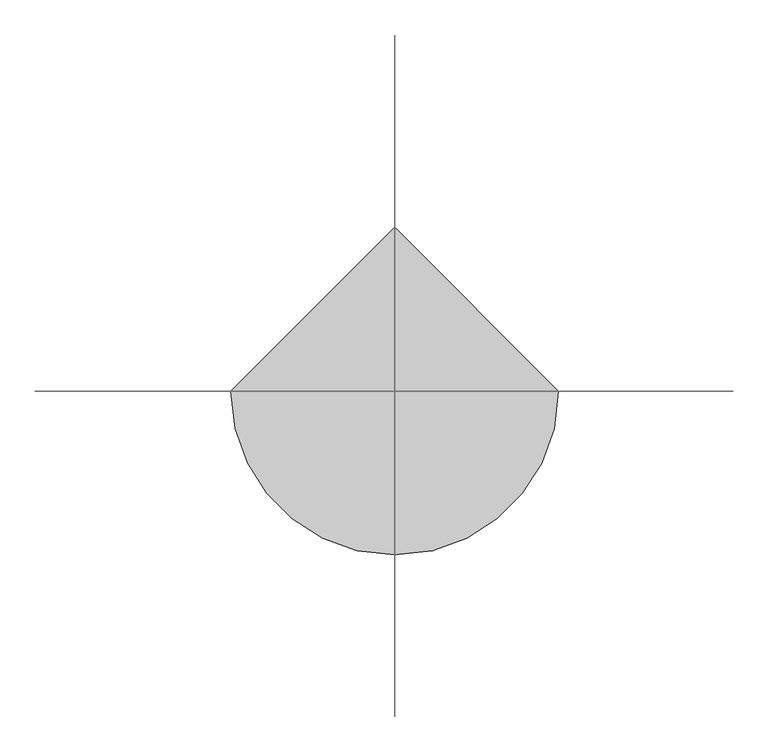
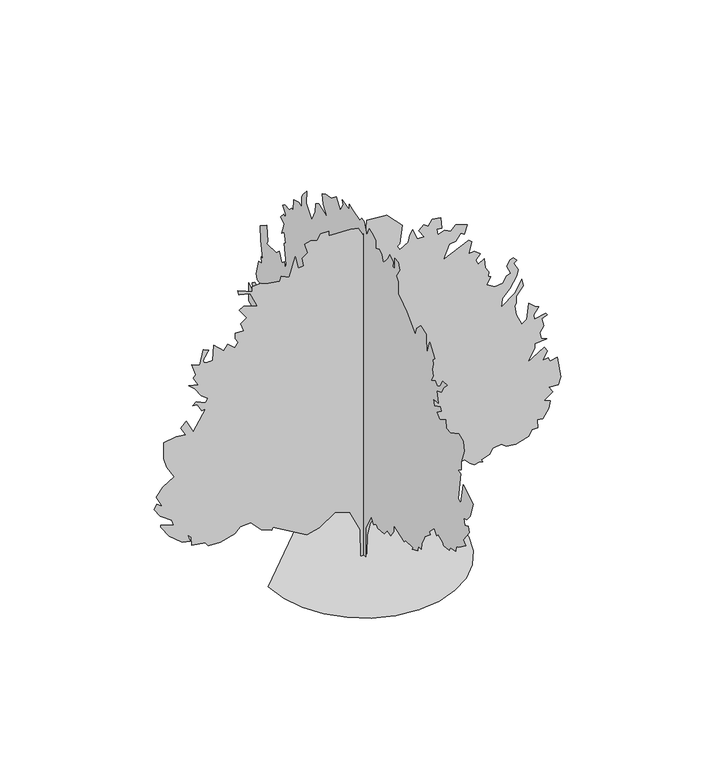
"""IFC4 building model written with IfcOpenShell, lengths in millimetres: geographic element geometry, Vegetacion PAEMFE : LAVANDA."""

from ifc_helpers import new_model, si_unit, origin, place, context, project, spatial, triangles, source, transform, mapped, element, save


def geographic_element_423ec4e2(model_context):
    return source(origin(), model_context, "Body", "Tessellation", [
        triangles([(-20.6854607, -8.5e-06, 157.9940081), (-79.7667336, -1.33e-05, 281.8835572), (-163.2318061, -1.13e-05, 308.9074528), (-249.231317, -4e-06, 249.4529786), (-319.2530422, 1e-07, 231.9474156), (-511.8137449, 1.8e-06, 345.7330393), (-516.1898586, 3e-06, 328.2280395), (-577.4615911, 4.1e-06, 354.485848), (-634.3505241, 2.9e-06, 415.7553277), (-695.6228016, 5.9e-06, 411.378669), (-726.2561062, 9.1e-06, 380.7442017), (-805.8339523, 1.39e-05, 357.9197227), (-875.0507303, 1.66e-05, 363.2386205), (-892.5562752, 1.61e-05, 385.1208604), (-966.9563124, 1.85e-05, 398.2497465), (-971.3340975, 1.59e-05, 446.389795), (-988.839715, 1.56e-05, 463.8953762), (-975.7063597, 1.73e-05, 424.5081001), (-1019.4730196, 1.87e-05, 433.2609089), (-1093.8731295, 1.83e-05, 494.5298435), (-1142.0120516, 1.63e-05, 564.5504605), (-1142.0120516, 1.55e-05, 577.6837795), (-1067.6119417, 1.38e-05, 551.4226645), (-1080.7397741, 1.23e-05, 586.4337905), (-1143.7508989, 1.23e-05, 631.9671667), (-1177.0231413, 1.08e-05, 682.7116711), (-1163.889786, 8.6e-06, 708.9727861), (-1133.2564814, 8.6e-06, 687.0894562), (-1168.2675711, 6.2e-06, 752.7339231), (-1129.9398233, 1.8e-06, 798.967293), (-1064.7397333, -3.5e-06, 838.7450975), (-1107.0008892, -5.9e-06, 910.2840448), (-1124.5064341, -8.5e-06, 967.1785372), (-1124.5064341, -1.42e-05, 1063.4563814), (-1054.484182, -1.78e-05, 1072.2119516), (-1001.9674747, -1.99e-05, 1067.8341665), (-1028.2230669, -2.16e-05, 1115.9730886), (-997.5896896, -2.47e-05, 1146.6064659), (-958.2007421, -2.18e-05, 1067.8341665), (-888.1784901, -3.16e-05, 1181.6176283), (-910.06182, -3.04e-05, 1177.2453661), (-936.3229351, -3.18e-05, 1221.0065758), (-962.5785273, -3.1e-05, 1225.3843609), (-940.7007202, -3.3e-05, 1242.8898331), (-888.1784901, -3.37e-05, 1216.628718), (-878.161805, -3.55e-05, 1240.2176125), (-914.4396051, -3.57e-05, 1269.1454979), (-949.4507675, -3.73e-05, 1321.6622051), (-984.4619299, -3.76e-05, 1352.3010326), (-931.9452227, -3.91e-05, 1339.1676773), (-958.2007421, -4.08e-05, 1387.3122677), (-945.0729824, -4.24e-05, 1404.8177399), (-966.9563124, -4.54e-05, 1470.4622795), (-923.1896524, -4.62e-05, 1452.956662), (-901.3118454, -5.22e-05, 1536.1068192), (-870.6729452, -5.27e-05, 1522.9789867), (-876.3784836, -5.21e-05, 1516.3567165), (-881.9173897, -5.14e-05, 1509.6289295), (-887.1229586, -5.08e-05, 1502.6789177), (-891.8284853, -5.01e-05, 1495.3956413), (-895.8729332, -4.95e-05, 1487.6734383), (-899.0895973, -4.89e-05, 1479.4011234), (-901.3118454, -4.82e-05, 1470.4622795), (-901.106262, -4.78e-05, 1462.6678425), (-897.5340237, -4.76e-05, 1457.6123371), (-891.1506924, -4.78e-05, 1454.8234085), (-882.5284716, -4.81e-05, 1453.8567524), (-872.2174004, -4.86e-05, 1454.256728), (-860.7896095, -4.91e-05, 1455.5678398), (-848.7951382, -4.98e-05, 1457.3289242), (-844.4173531, -5.52e-05, 1544.8567211), (-787.5228607, -5.45e-05, 1492.3400139), (-765.6450537, -5.73e-05, 1522.9789867), (-726.2561062, -5.69e-05, 1487.967897), (-704.3727762, -5.95e-05, 1514.2234165), (-721.8783211, -6.03e-05, 1540.4846043), (-721.8783211, -6.21e-05, 1571.1179089), (-673.739399, -6.42e-05, 1571.1179089), (-691.2450165, -6.63e-05, 1619.256831), (-658.3616312, -6.92e-05, 1643.8402142), (-699.9949911, -7.09e-05, 1702.4069881), (-673.739399, -7.28e-05, 1715.5346752), (-599.3393618, -7.48e-05, 1693.6569408), (-638.7283092, -7.8e-05, 1776.8069527), (-701.9227804, -7.63e-05, 1795.1125214), (-708.7505613, -7.75e-05, 1820.5680897), (-664.9839014, -7.84e-05, 1803.0626175), (-625.6004768, -7.91e-05, 1785.557), (-625.6004768, -8.09e-05, 1816.1958275), (-579.7504775, -8.32e-05, 1821.1570072), (-551.2009847, -8.36e-05, 1807.4404026), (-472.4259238, -8.63e-05, 1794.3125702), (-463.6731514, -8.82e-05, 1820.5680897), (-419.909798, -8.89e-05, 1798.6903553), (-384.8986356, -9.69e-05, 1908.096032), (-369.0297277, -9.33e-05, 1835.8236992), (-336.7585871, -9.48e-05, 1838.0737072), (-345.5113958, -9.73e-05, 1886.2181522), (-314.8769285, -0.0001, 1908.096032), (-332.3819283, -0.0001026, 1964.9905243), (-297.3713473, -0.0001046, 1973.7404263), (-262.3607663, -0.0001057, 1964.9905243), (-240.4785264, -0.0001084, 1995.6238289), (-196.7151548, -0.0001104, 1995.6238289), (-196.7151548, -0.0001088, 1969.3683094), (-71.3622775, -0.0001139, 1963.6349384), (-31.3734688, -0.0001151, 1954.4237274), (-4.1543479, -0.0001136, 1908.096032), (13.3512324, -0.0001161, 1938.7348595), (17.7275698, -0.0001192, 1986.8737816), (130.4189925, -0.0001235, 1976.8460506), (217.4607272, -0.000122, 1886.701553), (201.5351549, -0.000115, 1781.1847378), (188.4062688, -0.0001139, 1772.4291676), (201.5351549, -0.0001129, 1746.1736481), (249.6752034, -0.0001166, 1772.4291676), (258.4379861, -0.0001192, 1810.8958603), (275.933557, -0.0001216, 1838.0737072), (302.1919106, -0.0001191, 1776.8069527), (340.7491502, -0.0001207, 1775.7403027), (310.9446831, -0.0001221, 1820.5680897), (337.2024917, -0.0001248, 1846.8292774), (363.4608453, -0.0001249, 1829.3236599), (385.3425402, -0.000128, 1864.3348949), (433.4831337, -0.0001295, 1855.5793247), (437.858666, -0.0001258, 1789.9347851), (411.6008938, -0.0001249, 1794.3125702), (415.9770075, -0.000123, 1759.3013351), (455.3647923, -0.0001255, 1772.4291676), (490.3759546, -0.000126, 1754.9236954), (516.6337632, -0.000129, 1785.557), (581.3226926, -0.0001305, 1762.3124886), (564.7726853, -0.0001267, 1711.162413), (547.2682305, -0.0001267, 1724.2902454), (516.6337632, -0.000123, 1684.9013706), (481.6226008, -0.0001212, 1680.5291084), (446.6120198, -0.000115, 1601.7512135), (591.0338004, -0.0001252, 1667.3957531), (608.5393816, -0.0001249, 1649.8902809), (591.0338004, -0.0001203, 1584.2457413), (621.6671413, -0.0001219, 1588.6235264), (656.6783037, -0.0001218, 1562.3623386), (630.4171886, -0.0001189, 1531.729034), (643.550544, -0.0001179, 1505.4733692), (677.4672237, -0.0001205, 1524.890062), (684.2616491, -0.0001174, 1468.3956905), (704.8172258, -0.0001166, 1439.8233067), (700.4394407, -0.0001149, 1413.5677872), (713.5727961, -0.0001149, 1404.8122169), (691.6894661, -0.0001116, 1365.4288651), (738.8117352, -0.0001119, 1336.3511341), (783.5950481, -0.0001143, 1343.5454624), (805.4728552, -0.0001174, 1378.5566975), (826.8562157, -0.0001189, 1388.2622097), (805.4728552, -0.0001208, 1435.4511898), (822.9784, -0.0001234, 1466.0844944), (840.4840176, -0.0001246, 1474.8345417), (862.3673475, -0.0001243, 1452.956662), (844.8618027, -0.0001228, 1439.8233067), (870.8895744, -0.0001211, 1393.5456081), (862.3673475, -0.0001188, 1361.0510799), (822.9784, -0.0001132, 1295.4065403), (779.217263, -0.0001087, 1251.6398804), (774.8394779, -0.0001056, 1203.5009583), (849.2395878, -0.0001122, 1260.3954506), (888.6229397, -0.0001181, 1330.4177753), (897.3785099, -0.0001159, 1286.6509701), (857.9895624, -0.0001113, 1238.512048), (857.9895624, -0.000109, 1199.1231731), (849.2395878, -0.0001078, 1185.9954134), (857.9895624, -0.0001048, 1129.1009211), (888.6229397, -0.0001022, 1063.4563814), (917.9118496, -0.0001047, 1083.0119465), (928.0118872, -0.0001105, 1172.867581), (963.0229769, -0.0001102, 1142.2342764), (984.9063795, -0.0001106, 1133.4787062), (955.9229742, -0.000107, 1094.0342388), (958.6451918, -0.0001056, 1067.8341665), (1024.2952543, -0.0001092, 1080.9619989), (1033.0453016, -0.0001088, 1067.8341665), (1002.4119244, -0.0001067, 1054.7064068), (1011.789695, -0.0001045, 1011.350841), (989.2840919, -0.0001014, 975.9285845), (998.0341393, -9.97e-05, 940.9174221), (1028.6675165, -0.0001003, 927.7896624), (963.0229769, -9.69e-05, 919.0396151), (963.0229769, -9.53e-05, 892.7785), (919.2618399, -8.92e-05, 822.7562479), (1015.5396841, -9.68e-05, 879.6506676), (1033.0453016, -9.6e-05, 853.3895525), (1006.7841139, -9.2e-05, 805.2506304), (1037.4230867, -9.36e-05, 809.6284155), (1046.1730614, -9.27e-05, 787.7450855), (1089.939794, -9.51e-05, 796.5006557), (1107.4453388, -8.86e-05, 673.9616238), (1094.3119835, -8.54e-05, 630.1949638), (1041.8007992, -8.34e-05, 634.5727489), (1063.6786062, -8.22e-05, 599.5615866), (1015.5396841, -7.8e-05, 564.5504605), (1050.5508465, -7.88e-05, 551.4226645), (1041.8007992, -7.58e-05, 507.6587296), (1006.7841139, -7.14e-05, 459.5187175), (976.1508093, -7.03e-05, 463.8953762), (980.5285944, -6.76e-05, 415.7553277), (945.517432, -6.61e-05, 415.7553277), (928.0118872, -6.33e-05, 380.7442017), (856.8284414, -5.89e-05, 359.4958257), (801.1006657, -5.69e-05, 367.6152792), (774.8394779, -5.71e-05, 389.4969741), (726.7005558, -5.45e-05, 380.7442017), (708.2283548, -5.19e-05, 351.8641694), (661.0560888, -4.9e-05, 336.9802669), (669.8060635, -4.83e-05, 319.475267), (652.3005186, -4.81e-05, 328.2280395), (621.6671413, -4.62e-05, 319.475267), (595.4060263, -4.61e-05, 336.9802669), (569.1504704, -4.68e-05, 367.6152792), (525.3859906, -4.44e-05, 358.8625068), (517.9465101, -4.29e-05, 339.8408117), (429.1064386, -3.65e-05, 297.5930089), (429.1064386, -3.49e-05, 271.3352185), (354.7080729, -2.99e-05, 240.700188), (354.7080729, -3.06e-05, 253.8296555), (302.1913475, -2.78e-05, 245.0768649), (233.4190736, -2.69e-05, 279.5241082), (182.0095844, -2.47e-05, 280.8741167), (84.7406215, -1.74e-05, 229.6224122), (37.9026965, -1.22e-05, 177.3056927), (19.9451829, -7.6e-06, 113.4573098), (17.7275142, -8e-07, 0.0), (-17.2835142, 8e-07, 1.5e-06), (-535.6676668, 0.0, 9.93e-05), (-521.5065399, -122.7395466, 9.14e-05), (-481.1753898, -235.4563039, 8.29e-05), (-417.9036704, -334.9208359, 7.42e-05), (-334.9208359, -417.9036704, 6.56e-05), (-235.4563039, -481.1753898, 5.75e-05), (-122.7395466, -521.5065399, 5.02e-05), (2.5e-05, -535.6676668, 4.4e-05), (122.7395466, -521.5065399, 3.95e-05), (235.4563039, -481.1753898, 0.0001121), (334.9208359, -417.9036704, 0.0001115), (417.9036704, -334.9208359, 0.0001128), (481.1753898, -235.4563039, 4.08e-05), (521.5065399, -122.7395466, 4.58e-05), (535.6676668, 4.68e-05, 5.25e-05), (-6.9e-05, 535.6676668, 0.0001078), (-2.2e-06, -19.178183, 41.8219794), (-6e-06, -20.4842943, 172.3929112), (-1.33e-05, -72.7328379, 271.3352185), (-1.11e-05, -98.9917502, 240.700188), (-1.13e-05, -120.8734269, 258.2057692), (-1.26e-05, -138.3784449, 245.0768649), (-1.51e-05, -199.6473886, 249.4529786), (-1.96e-05, -230.2824009, 284.4641228), (-2.15e-05, -265.292982, 275.7113322), (-2.1e-05, -291.5513356, 315.098572), (-2.39e-05, -291.5513356, 354.485848), (-2.54e-05, -396.5842232, 319.475267), (-3.01e-05, -409.7136543, 332.6041532), (-3.31e-05, -484.1115114, 336.9808119), (-2.86e-05, -470.9831703, 319.475267), (-3.46e-05, -527.8754099, 345.7336206), (-3.35e-05, -532.2515236, 376.368088), (-3.48e-05, -562.8837745, 376.368088), (-3.82e-05, -567.2615596, 411.379214), (-3.74e-05, -584.7671408, 446.389795), (-4.16e-05, -593.522711, 468.2720349), (-4.19e-05, -650.4116077, 516.4120834), (-4.57e-05, -637.283848, 525.1643108), (-4.57e-05, -689.8005552, 577.6837795), (-4.8e-05, -711.6838852, 547.0465508), (-4.8e-05, -724.8117176, 560.1782347), (-5.06e-05, -768.5783775, 542.669892), (-5.18e-05, -781.7062099, 529.5409696), (-5.39e-05, -834.2229172, 533.9170833), (-5.33e-05, -842.9728918, 555.8004496), (-5.52e-05, -895.489599, 564.5504605), (-5.88e-05, -899.8673841, 595.1838015), (-5.94e-05, -926.1229763, 608.3171568), (-6.48e-05, -996.1452284, 660.833864), (-6.29e-05, -969.8896362, 678.3394089), (-6.66e-05, -1026.7841286, 757.1117083), (-6.96e-05, -1018.0285583, 787.7450855), (-6.87e-05, -983.0174686, 774.6172531), (-6.68e-05, -974.2674213, 809.6284155), (-6.77e-05, -1004.9007986, 818.3839857), (-7.2e-05, -1037.8619408, 861.3229345), (-7.4e-05, -1066.1675531, 949.6729923), (-7.2e-05, -969.8896362, 1006.5674847), (-6.7e-05, -948.0063063, 884.0284527), (-6.55e-05, -921.7507141, 892.7785), (-7.34e-05, -944.0229738, 1056.5730806), (-7.2e-05, -917.372929, 1063.4563814), (-7.25e-05, -952.3840914, 1085.339784), (-7.51e-05, -952.3840914, 1133.4787062), (-7.75e-05, -978.6396835, 1212.2565285), (-7.95e-05, -969.8896362, 1264.7732357), (-8.15e-05, -926.1229763, 1282.2788532), (-7.5e-05, -841.4895521, 1239.3787102), (-7.32e-05, -803.5839443, 1242.8898331), (-7.56e-05, -799.2117548, 1291.0287552), (-7e-05, -742.3172625, 1256.0176655), (-6.75e-05, -711.6838852, 1282.2788532), (-7.27e-05, -755.4450222, 1312.9121578), (-7.14e-05, -746.6950476, 1334.7955605), (-7.01e-05, -685.4227701, 1304.1565876), (-6.82e-05, -676.6727955, 1339.1676773), (-7.01e-05, -724.8117176, 1343.5454624), (-7.13e-05, -710.0839102, 1407.6344284), (-7.72e-05, -755.4450222, 1426.6956196), (-7.64e-05, -781.7062099, 1470.4622795), (-8.11e-05, -816.7172997, 1505.4733692), (-7.92e-05, -768.5783775, 1501.0955841), (-7.53e-05, -746.6950476, 1461.7067093), (-7.49e-05, -716.0616703, 1439.8289749), (-7.31e-05, -698.5561255, 1461.7067093), (-7.24e-05, -659.167178, 1439.8289749), (-7.63e-05, -676.6727955, 1474.8345417), (-7.44e-05, -667.9172253, 1509.8456314), (-7.79e-05, -676.6727955, 1544.8567211), (-7.66e-05, -672.2950104, 1571.1179089), (-7.68e-05, -694.1783403, 1588.6235264), (-7.63e-05, -646.0394182, 1658.6457058), (-7.71e-05, -632.9060629, 1628.0124012), (-7.43e-05, -615.400518, 1566.7401237), (-7.83e-05, -611.0282558, 1684.9013706), (-7.53e-05, -558.5115486, 1702.4069881), (-7.06e-05, -519.1226375, 1663.0234909), (-7.17e-05, -501.6170563, 1619.256831), (-6.79e-05, -457.8531578, 1663.0234909), (-6.92e-05, -418.4658817, 1702.4069881), (-6.67e-05, -387.8314144, 1728.6680305), (-6.77e-05, -335.3152522, 1759.3013351), (-6.94e-05, -335.3152522, 1829.3236599), (-6.75e-05, -317.8097074, 1855.5793247), (-7.14e-05, -352.8202884, 1908.096032), (-7.38e-05, -339.2113807, 1947.7126545), (-7.21e-05, -303.2313457, 1950.1071304), (-7.01e-05, -303.2313457, 1888.4626373), (-6.92e-05, -283.8574556, 1888.4626373), (-6.81e-05, -287.1746768, 1916.8516022), (-7.03e-05, -252.1640958, 1938.7348595), (-6.64e-05, -234.6585146, 1903.7237698), (-6.19e-05, -190.894598, 1855.5793247), (-6.43e-05, -177.7656937, 1894.9681995), (-6.24e-05, -151.5073401, 1912.4738171), (-6.16e-05, -116.496205, 1894.9681995), (-6.42e-05, -116.496205, 1943.1071217), (-6.25e-05, -91.8789667, 1957.1516132), (-6.02e-05, -55.2276019, 1973.7460945), (-5.67e-05, -28.9690235, 1921.2293873), (-5.75e-05, -7.0872281, 1986.8737816), (-5.62e-05, 19.171016, 1991.2515667), (-5.64e-05, 36.6765858, 1969.3683094), (-5.22e-05, 111.0745337, 1991.2515667), (-5.51e-05, 141.709001, 2000.001614), (-5.18e-05, 141.709001, 1969.3683094), (-4.82e-05, 207.3546035, 1986.8737816), (-4.95e-05, 198.6023761, 1964.9905243), (-4.58e-05, 229.2362984, 1912.4738171), (-4.62e-05, 268.6241013, 1969.3683094), (-4.11e-05, 316.6208264, 1931.9960266), (-3.91e-05, 370.21919, 1923.1737453), (-3.85e-05, 404.2914199, 1903.7237698), (-3.67e-05, 391.8036647, 1848.6181217), (-3.6e-05, 356.1514077, 1794.3125702), (-3.57e-05, 439.3025823, 1824.9458748), (-3.06e-05, 465.5609359, 1807.4404026), (-3.25e-05, 474.3137083, 1754.9236954), (-2.94e-05, 504.9481756, 1689.2791557), (-2.89e-05, 557.46154, 1754.9236954), (-3.05e-05, 553.0882241, 1829.3236599), (-2.6e-05, 592.4782617, 1785.557), (-2.64e-05, 605.6060577, 1763.6791203), (-2.44e-05, 605.6060577, 1702.4069881), (-2.27e-05, 631.8616499, 1715.5401981), (-2.12e-05, 680.000572, 1702.4069881), (-1.91e-05, 688.7561422, 1632.3846634), (-1.84e-05, 701.883902, 1636.7624485), (-1.37e-05, 723.7672319, 1614.8790459), (-1.16e-05, 767.5283689, 1619.256831), (-1.14e-05, 789.4117716, 1601.7512135), (-1.42e-05, 758.7783943, 1566.7401237), (-1.03e-05, 763.1561794, 1544.8567211), (-9.2e-06, 780.6617243, 1553.6122913), (-9.4e-06, 806.9173164, 1522.9789867), (-1.18e-05, 776.2839392, 1496.717799), (-9.1e-06, 798.1672691, 1431.0734047), (-9.3e-06, 776.2839392, 1448.5788769), (-7.6e-06, 758.7783943, 1396.0621696), (-7.4e-06, 776.2839392, 1382.9344826), (-4e-06, 754.4006092, 1269.1454979), (-4.7e-06, 763.1561794, 1242.8898331), (-2.8e-06, 776.2839392, 1273.523283), (-2.6e-06, 798.4173265, 1255.6844009), (-3.9e-06, 824.4228613, 1308.5343727), (8e-07, 850.684049, 1282.2788532), (4.8e-06, 946.9618933, 1277.9010681), (5.2e-06, 933.8340609, 1299.7843254), (2e-07, 946.9618933, 1387.3122677), (5.9e-06, 1008.2285751, 1347.9232475), (6.7e-06, 1003.8563856, 1264.7732357), (1.1e-05, 981.972983, 1168.4897959), (1.17e-05, 999.4786005, 1168.4897959), (9.9e-06, 991.4229876, 1134.4287209), (1.1e-05, 1021.3619305, 1129.106444), (1.75e-05, 1047.6175226, 1037.2008619), (1.58e-05, 1038.8674753, 1006.5674847), (1.42e-05, 1008.2285751, 1002.1896996), (1.66e-05, 1003.8563856, 954.0507774), (2.03e-05, 1060.7452824, 980.3063696), (2.06e-05, 1084.645277, 963.7952408), (2.27e-05, 1073.8786377, 914.6618299), (2.12e-05, 1122.0175598, 940.9174221), (2.58e-05, 1122.0175598, 831.5117455), (2.11e-05, 1043.2397375, 800.8784409), (2.69e-05, 1091.3841825, 778.9950382), (2.65e-05, 1104.512015, 757.1117083), (2.7e-05, 1047.6175226, 717.7227608), (2.57e-05, 1012.6063602, 722.1005459), (2.64e-05, 1060.7452824, 691.4672413), (2.69e-05, 1125.9286583, 744.1672949), (2.95e-05, 1139.5231047, 682.7116711), (3.02e-05, 1113.2619896, 617.0671314), (3.32e-05, 1161.4065073, 638.9505341), (3.66e-05, 1165.1731379, 604.6671616), (3.32e-05, 1123.9453491, 568.9615648), (3.33e-05, 1104.512015, 590.8115756), (2.81e-05, 1074.8286524, 609.2393752), (3.11e-05, 1095.7564447, 656.4560789), (2.64e-05, 1078.2508272, 673.9616238), (2.84e-05, 1053.8175076, 636.750523), (2.93e-05, 1012.6063602, 590.8115756), (2.84e-05, 1030.1119051, 551.4226645), (3.1e-05, 1060.7452824, 582.0560054), (3.07e-05, 1073.8786377, 560.1782347), (3.34e-05, 1069.5008526, 520.7881971), (2.96e-05, 1012.6063602, 490.1537298), (3.32e-05, 1034.4896902, 442.0136813), (3.23e-05, 1078.2508272, 485.7770711), (3.6e-05, 1080.3508444, 461.4470518), (3.61e-05, 1051.9953077, 385.1208604), (3.42e-05, 1008.2285751, 385.1208604), (3.72e-05, 1012.6063602, 341.3569256), (3.15e-05, 981.972983, 350.1097343), (3.34e-05, 949.5674028, 317.8424815), (3.32e-05, 933.8340609, 328.2280395), (2.88e-05, 850.684049, 310.7224583), (2.76e-05, 820.0450762, 315.098572), (2.86e-05, 828.8006464, 328.2280395), (2.65e-05, 767.5283689, 341.3569256), (2.51e-05, 763.1561794, 315.098572), (2.4e-05, 741.2728495, 310.7224583), (2.23e-05, 715.0116617, 297.5930089), (1.59e-05, 627.4838648, 345.7330393), (1.88e-05, 609.9838428, 323.8513807), (1.43e-05, 577.6282233, 360.029732), (1.15e-05, 526.8298705, 345.7330393), (8e-06, 448.0548097, 345.7336206), (7.2e-06, 364.9041801, 301.9696858), (6.6e-06, 373.6569526, 280.0880091), (9.7e-06, 347.398599, 271.3352185), (5.8e-06, 347.398599, 288.8407815), (4.3e-06, 316.7635866, 284.4641228), (2.8e-06, 264.2479876, 301.9696858), (-2.2e-06, 222.994074, 337.3091712), (-5.6e-06, 80.3050637, 295.6202369), (-2.5e-06, 27.6433004, 204.2357168), (2.3e-06, 19.1709592, 7.7e-05), (6e-07, -20.2164055, 7.47e-05)], [[48, 49, 50], [94, 95, 96], [184, 185, 186], [212, 213, 214], [165, 166, 167], [165, 167, 168], [42, 43, 44], [52, 53, 54], [70, 71, 72], [42, 44, 45], [85, 86, 87], [84, 85, 87], [84, 87, 88], [41, 42, 45], [40, 41, 45], [173, 174, 175], [117, 118, 119], [17, 18, 19], [116, 117, 119], [144, 145, 146], [221, 222, 223], [21, 22, 23], [20, 21, 23], [132, 133, 134], [131, 132, 134], [130, 131, 134], [37, 38, 39], [36, 37, 39], [55, 56, 57], [164, 165, 168], [164, 168, 169], [164, 169, 170], [175, 176, 177], [173, 175, 177], [125, 126, 127], [179, 180, 181], [178, 179, 181], [173, 177, 178], [130, 134, 135], [130, 135, 136], [124, 125, 127], [123, 124, 127], [6, 7, 8], [26, 27, 28], [25, 26, 28], [80, 81, 82], [80, 82, 83], [157, 158, 159], [156, 157, 159], [155, 156, 159], [154, 155, 159], [154, 159, 160], [154, 160, 161], [92, 93, 94], [72, 73, 74], [203, 204, 205], [141, 142, 143], [193, 194, 195], [99, 100, 101], [55, 57, 58], [103, 104, 105], [76, 77, 78], [75, 76, 78], [109, 110, 111], [140, 141, 143], [99, 101, 102], [229, 230, 231], [229, 231, 1], [228, 229, 1], [188, 189, 190], [188, 190, 191], [197, 198, 199], [102, 103, 105], [148, 149, 150], [17, 19, 20], [17, 20, 23], [88, 89, 90], [154, 161, 162], [153, 154, 162], [152, 153, 162], [152, 162, 163], [151, 152, 163], [33, 34, 35], [228, 1, 2], [227, 228, 2], [83, 84, 88], [199, 200, 201], [47, 48, 50], [121, 122, 123], [120, 121, 123], [120, 123, 127], [120, 127, 128], [195, 196, 197], [193, 195, 197], [220, 221, 223], [191, 192, 193], [14, 15, 16], [78, 79, 80], [55, 58, 59], [54, 55, 59], [54, 59, 60], [54, 60, 61], [54, 61, 62], [54, 62, 63], [54, 63, 64], [54, 64, 65], [183, 184, 186], [129, 130, 136], [128, 129, 136], [137, 138, 139], [137, 139, 140], [83, 88, 90], [83, 90, 91], [83, 91, 92], [164, 170, 171], [28, 29, 30], [191, 193, 197], [188, 191, 197], [50, 51, 52], [24, 25, 28], [97, 98, 99], [109, 111, 112], [109, 112, 113], [109, 113, 114], [108, 109, 114], [128, 136, 137], [120, 128, 137], [201, 202, 203], [199, 201, 203], [178, 181, 182], [178, 182, 183], [33, 35, 36], [32, 33, 36], [31, 32, 36], [31, 36, 39], [119, 120, 137], [28, 30, 31], [52, 54, 65], [52, 65, 66], [50, 52, 66], [50, 66, 67], [50, 67, 68], [50, 68, 69], [116, 119, 137], [115, 116, 137], [172, 173, 178], [172, 178, 183], [172, 183, 186], [188, 197, 199], [24, 28, 31], [50, 69, 70], [214, 215, 216], [212, 214, 216], [212, 216, 217], [47, 50, 70], [46, 47, 70], [46, 70, 72], [46, 72, 74], [12, 13, 14], [205, 206, 207], [106, 107, 108], [137, 140, 143], [226, 227, 2], [146, 147, 148], [4, 5, 6], [3, 4, 6], [99, 102, 105], [97, 99, 105], [97, 105, 106], [97, 106, 108], [97, 108, 114], [97, 114, 115], [218, 219, 220], [137, 143, 144], [188, 199, 203], [188, 203, 205], [188, 205, 207], [188, 207, 208], [188, 208, 209], [188, 209, 210], [210, 211, 212], [210, 212, 217], [188, 210, 217], [188, 217, 218], [6, 8, 9], [78, 80, 83], [223, 224, 225], [220, 223, 225], [83, 92, 94], [11, 12, 14], [10, 11, 14], [10, 14, 16], [10, 16, 17], [10, 17, 23], [10, 23, 24], [10, 24, 31], [10, 31, 39], [9, 10, 39], [9, 39, 40], [6, 9, 40], [3, 6, 40], [3, 40, 45], [3, 45, 46], [3, 46, 74], [3, 74, 75], [3, 75, 78], [3, 78, 83], [3, 83, 94], [3, 94, 96], [3, 96, 97], [3, 97, 115], [3, 115, 137], [2, 3, 137], [226, 2, 137], [226, 137, 144], [226, 144, 146], [226, 146, 148], [226, 148, 150], [225, 226, 150], [220, 225, 150], [218, 220, 150], [188, 218, 150], [150, 151, 163], [150, 163, 164], [188, 150, 164], [188, 164, 171], [188, 171, 172], [188, 172, 186], [187, 188, 186], [246, 247, 232], [245, 246, 232], [245, 232, 233], [244, 245, 233], [244, 233, 234], [244, 234, 235], [243, 244, 235], [242, 243, 235], [242, 235, 236], [242, 236, 237], [242, 237, 238], [242, 238, 239], [242, 239, 240], [242, 240, 241], [261, 262, 263], [388, 389, 390], [372, 373, 374], [312, 313, 314], [440, 441, 442], [440, 442, 443], [312, 314, 315], [311, 312, 315], [358, 359, 360], [323, 324, 325], [414, 415, 416], [422, 423, 424], [301, 302, 303], [449, 450, 451], [400, 401, 402], [400, 402, 403], [399, 400, 403], [444, 445, 446], [311, 315, 316], [310, 311, 316], [289, 290, 291], [288, 289, 291], [287, 288, 291], [286, 287, 291], [280, 281, 282], [396, 397, 398], [322, 323, 325], [322, 325, 326], [462, 463, 464], [461, 462, 464], [425, 426, 427], [425, 427, 428], [425, 428, 429], [440, 443, 444], [268, 269, 270], [356, 357, 358], [394, 395, 396], [435, 436, 437], [435, 437, 438], [435, 438, 439], [425, 429, 430], [425, 430, 431], [424, 425, 431], [404, 405, 406], [372, 374, 375], [372, 375, 376], [456, 457, 458], [271, 272, 273], [371, 372, 376], [414, 416, 417], [308, 309, 310], [342, 343, 344], [341, 342, 344], [305, 306, 307], [304, 305, 307], [283, 284, 285], [282, 283, 285], [338, 339, 340], [337, 338, 340], [336, 337, 340], [361, 362, 363], [382, 383, 384], [381, 382, 384], [470, 471, 248], [469, 470, 248], [469, 248, 249], [469, 249, 250], [468, 469, 250], [386, 387, 388], [385, 386, 388], [399, 403, 404], [250, 251, 252], [350, 351, 352], [418, 419, 420], [417, 418, 420], [417, 420, 421], [321, 322, 326], [320, 321, 326], [292, 293, 294], [264, 265, 266], [316, 317, 318], [310, 316, 318], [308, 310, 318], [446, 447, 448], [424, 431, 432], [422, 424, 432], [422, 432, 433], [364, 365, 366], [277, 278, 279], [261, 263, 264], [255, 256, 257], [398, 399, 404], [326, 327, 328], [326, 328, 329], [326, 329, 330], [452, 453, 454], [396, 398, 404], [412, 413, 414], [411, 412, 414], [411, 414, 417], [377, 378, 379], [376, 377, 379], [336, 340, 341], [408, 409, 410], [341, 344, 345], [421, 422, 433], [421, 433, 434], [363, 364, 366], [363, 366, 367], [361, 363, 367], [407, 408, 410], [406, 407, 410], [391, 392, 393], [336, 341, 345], [255, 257, 258], [258, 259, 260], [379, 380, 381], [275, 276, 277], [274, 275, 277], [352, 353, 354], [352, 354, 355], [348, 349, 350], [348, 350, 352], [346, 347, 348], [345, 346, 348], [297, 298, 299], [297, 299, 300], [296, 297, 300], [294, 295, 296], [294, 296, 300], [294, 300, 301], [335, 336, 345], [334, 335, 345], [454, 455, 456], [452, 454, 456], [358, 360, 361], [367, 368, 369], [367, 369, 370], [286, 291, 292], [355, 356, 358], [448, 449, 451], [439, 440, 444], [396, 404, 406], [394, 396, 406], [394, 406, 410], [394, 410, 411], [371, 376, 379], [367, 370, 371], [294, 301, 303], [253, 254, 255], [252, 253, 255], [292, 294, 303], [318, 319, 320], [318, 320, 326], [318, 326, 330], [434, 435, 439], [352, 355, 358], [352, 358, 361], [352, 361, 367], [260, 261, 264], [411, 417, 421], [394, 411, 421], [252, 255, 258], [250, 252, 258], [348, 352, 367], [345, 348, 367], [334, 345, 367], [334, 367, 371], [333, 334, 371], [332, 333, 371], [331, 332, 371], [330, 331, 371], [318, 330, 371], [308, 318, 371], [307, 308, 371], [307, 371, 379], [307, 379, 381], [307, 381, 384], [307, 384, 385], [307, 385, 388], [307, 388, 390], [307, 390, 391], [307, 391, 393], [307, 393, 394], [307, 394, 421], [307, 421, 434], [307, 434, 439], [307, 439, 444], [307, 444, 446], [307, 446, 448], [307, 448, 451], [307, 451, 452], [307, 452, 456], [307, 456, 458], [307, 458, 459], [307, 459, 460], [307, 460, 461], [307, 461, 464], [307, 464, 465], [307, 465, 466], [307, 466, 467], [307, 467, 468], [307, 468, 250], [307, 250, 258], [304, 307, 258], [303, 304, 258], [292, 303, 258], [292, 258, 260], [273, 274, 277], [273, 277, 279], [271, 273, 279], [279, 280, 282], [271, 279, 282], [271, 282, 285], [271, 285, 286], [271, 286, 292], [271, 292, 260], [270, 271, 260], [268, 270, 260], [268, 260, 264], [268, 264, 266], [268, 266, 267]], closed=False),
    ])


if __name__ == "__main__":
    model = new_model("IFC4")
    model_context = context("Model", 3, world=origin())
    ifc_project = project(units=[si_unit("LENGTHUNIT", "METRE", prefix="MILLI")], contexts=[model_context])
    site = spatial("IfcSite", under=ifc_project)
    building = spatial("IfcBuilding", under=site)
    placement = place(None, origin())
    geographic_element_shape = geographic_element_423ec4e2(model_context)
    element("IfcGeographicElement", 1, ObjectType="Vegetacion PAEMFE : LAVANDA", at=placement, inside=building, context=model_context, shape_type="MappedRepresentation", body=[
        mapped(geographic_element_shape, transform((0.0, 0.0, 0.0), x_axis=(1.0, 0.0, 0.0), y_axis=(0.0, 1.0, 0.0), z_axis=(0.0, 0.0, 1.0))),
    ])
    save(model, "model.ifc")
